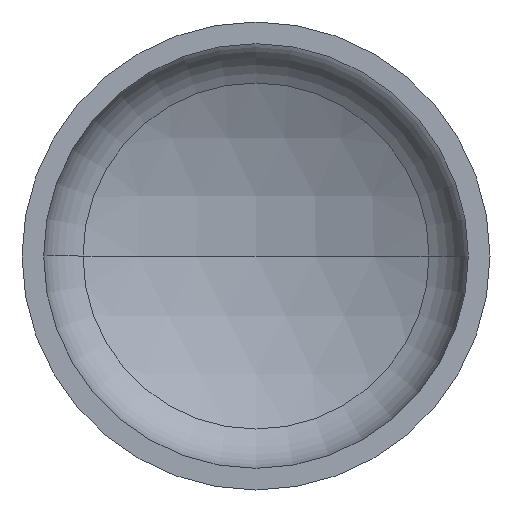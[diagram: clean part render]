
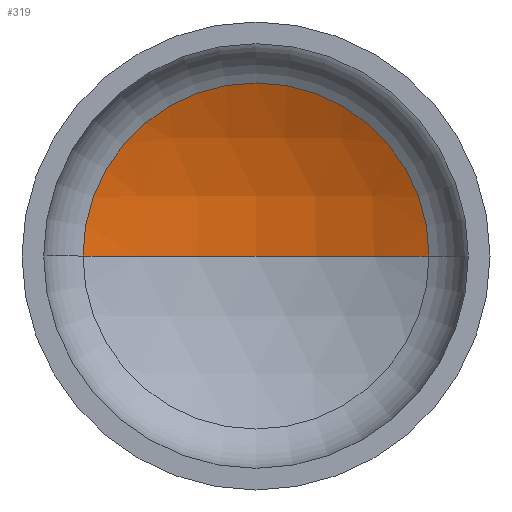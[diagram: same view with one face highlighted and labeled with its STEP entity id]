
A CAD part, front view. The second image highlights one B-rep face of the part: STEP entity #319.
In plain terms, the highlighted spherical face has radius 640 mm.
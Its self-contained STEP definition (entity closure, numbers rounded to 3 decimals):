
#11 = AXIS2_PLACEMENT_3D ( 'NONE', #99, #302, #141 ) ;
#12 = AXIS2_PLACEMENT_3D ( 'NONE', #114, #250, #376 ) ;
#13 = AXIS2_PLACEMENT_3D ( 'NONE', #227, #375, #333 ) ;
#41 = EDGE_LOOP ( 'NONE', ( #124, #112, #44 ) ) ;
#44 = ORIENTED_EDGE ( 'NONE', *, *, #322, .T. ) ;
#71 = VERTEX_POINT ( 'NONE', #312 ) ;
#99 = CARTESIAN_POINT ( 'NONE',  ( 0., -336.707, 0. ) ) ;
#111 = FACE_OUTER_BOUND ( 'NONE', #41, .T. ) ;
#112 = ORIENTED_EDGE ( 'NONE', *, *, #332, .T. ) ;
#114 = CARTESIAN_POINT ( 'NONE',  ( 0., -336.707, 0. ) ) ;
#124 = ORIENTED_EDGE ( 'NONE', *, *, #381, .F. ) ;
#141 = DIRECTION ( 'NONE',  ( -1., 0., 0. ) ) ;
#142 = CARTESIAN_POINT ( 'NONE',  ( 0., -336.707, 0. ) ) ;
#152 = VERTEX_POINT ( 'NONE', #166 ) ;
#166 = CARTESIAN_POINT ( 'NONE',  ( 0., 303.293, 0. ) ) ;
#176 = DIRECTION ( 'NONE',  ( 1., 0., 0. ) ) ;
#192 = AXIS2_PLACEMENT_3D ( 'NONE', #142, #334, #176 ) ;
#194 = CIRCLE ( 'NONE', #13, 295.767 ) ;
#227 = CARTESIAN_POINT ( 'NONE',  ( 0., 230.851, 0. ) ) ;
#250 = DIRECTION ( 'NONE',  ( 0., 0., -1. ) ) ;
#265 = SPHERICAL_SURFACE ( 'NONE', #12, 640. ) ;
#302 = DIRECTION ( 'NONE',  ( 0., 0., -1. ) ) ;
#312 = CARTESIAN_POINT ( 'NONE',  ( 295.767, 230.851, 0. ) ) ;
#319 = ADVANCED_FACE ( 'NONE', ( #111 ), #265, .F. ) ;
#322 = EDGE_CURVE ( 'NONE', #71, #386, #194, .T. ) ;
#330 = CIRCLE ( 'NONE', #11, 640. ) ;
#332 = EDGE_CURVE ( 'NONE', #152, #71, #330, .T. ) ;
#333 = DIRECTION ( 'NONE',  ( 1., 0., 0. ) ) ;
#334 = DIRECTION ( 'NONE',  ( 0., 0., 1. ) ) ;
#356 = CARTESIAN_POINT ( 'NONE',  ( -295.767, 230.851, 0. ) ) ;
#372 = CIRCLE ( 'NONE', #192, 640. ) ;
#375 = DIRECTION ( 'NONE',  ( 0., -1., 0. ) ) ;
#376 = DIRECTION ( 'NONE',  ( -1., 0., 0. ) ) ;
#381 = EDGE_CURVE ( 'NONE', #152, #386, #372, .T. ) ;
#386 = VERTEX_POINT ( 'NONE', #356 ) ;
